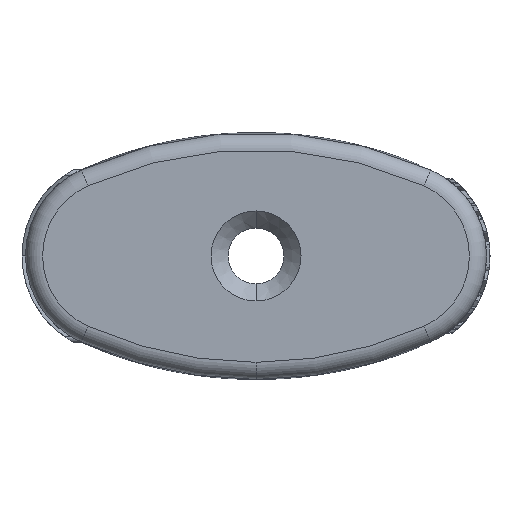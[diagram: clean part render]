
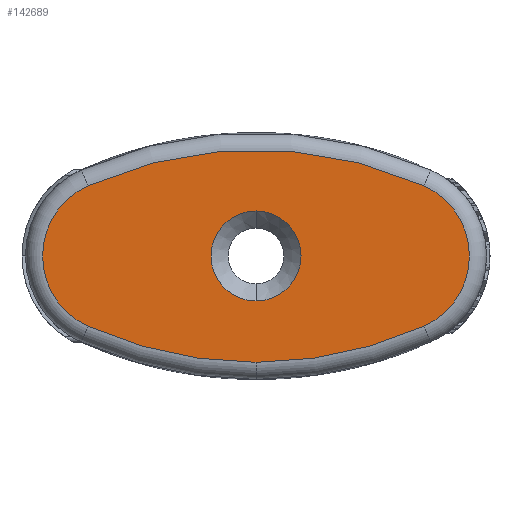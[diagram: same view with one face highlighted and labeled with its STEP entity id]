
A CAD part, front view. The second image highlights one B-rep face of the part: STEP entity #142689.
In plain terms, the highlighted planar face has unit normal (0, -1, 0).
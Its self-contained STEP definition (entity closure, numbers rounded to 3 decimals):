
#3163 = CARTESIAN_POINT ( 'NONE',  ( 0., 0., -6.2 ) ) ;
#5101 = VERTEX_POINT ( 'NONE', #115822 ) ;
#7995 = ORIENTED_EDGE ( 'NONE', *, *, #181501, .T. ) ;
#15764 = DIRECTION ( 'NONE',  ( 0., 0., -1. ) ) ;
#16698 = DIRECTION ( 'NONE',  ( 0., 1., 0. ) ) ;
#17925 = PLANE ( 'NONE',  #125001 ) ;
#18510 = CARTESIAN_POINT ( 'NONE',  ( 0., 0., 0. ) ) ;
#18570 = ORIENTED_EDGE ( 'NONE', *, *, #129181, .T. ) ;
#19658 = ORIENTED_EDGE ( 'NONE', *, *, #39215, .T. ) ;
#21766 = CARTESIAN_POINT ( 'NONE',  ( 0., 0., 0. ) ) ;
#31761 = DIRECTION ( 'NONE',  ( 0., -1., 0. ) ) ;
#39215 = EDGE_CURVE ( 'NONE', #62475, #184028, #145760, .T. ) ;
#39940 = CIRCLE ( 'NONE', #132085, 23.939 ) ;
#40500 = CARTESIAN_POINT ( 'NONE',  ( 9.79, 0., 4.106 ) ) ;
#40797 = CARTESIAN_POINT ( 'NONE',  ( 0., 0., 17.739 ) ) ;
#41259 = CARTESIAN_POINT ( 'NONE',  ( 7.95, 0., 0. ) ) ;
#42934 = ORIENTED_EDGE ( 'NONE', *, *, #64631, .T. ) ;
#42969 = CARTESIAN_POINT ( 'NONE',  ( 0., 0., -17.739 ) ) ;
#62475 = VERTEX_POINT ( 'NONE', #129173 ) ;
#64631 = EDGE_CURVE ( 'NONE', #109550, #62475, #39940, .T. ) ;
#67411 = DIRECTION ( 'NONE',  ( 0., 0., -1. ) ) ;
#68383 = AXIS2_PLACEMENT_3D ( 'NONE', #18510, #16698, #15764 ) ;
#71258 = EDGE_CURVE ( 'NONE', #136383, #154121, #128904, .T. ) ;
#71671 = DIRECTION ( 'NONE',  ( 0., -1., 0. ) ) ;
#84385 = AXIS2_PLACEMENT_3D ( 'NONE', #40797, #140285, #99395 ) ;
#87713 = CIRCLE ( 'NONE', #132243, 4.5 ) ;
#87746 = FACE_OUTER_BOUND ( 'NONE', #151023, .T. ) ;
#95353 = AXIS2_PLACEMENT_3D ( 'NONE', #41259, #98920, #67411 ) ;
#95998 = ORIENTED_EDGE ( 'NONE', *, *, #71258, .T. ) ;
#98890 = DIRECTION ( 'NONE',  ( 0., -1., 0. ) ) ;
#98920 = DIRECTION ( 'NONE',  ( 0., -1., 0. ) ) ;
#99145 = DIRECTION ( 'NONE',  ( 0., -1., 0. ) ) ;
#99395 = DIRECTION ( 'NONE',  ( 0., 0., -1. ) ) ;
#100746 = FACE_BOUND ( 'NONE', #140249, .T. ) ;
#101910 = DIRECTION ( 'NONE',  ( 0., 0., -1. ) ) ;
#103174 = EDGE_CURVE ( 'NONE', #184028, #5101, #103668, .T. ) ;
#103668 = CIRCLE ( 'NONE', #168929, 23.939 ) ;
#105812 = VERTEX_POINT ( 'NONE', #117975 ) ;
#107311 = DIRECTION ( 'NONE',  ( 0., 0., -1. ) ) ;
#109550 = VERTEX_POINT ( 'NONE', #3163 ) ;
#110646 = ORIENTED_EDGE ( 'NONE', *, *, #103174, .T. ) ;
#112532 = DIRECTION ( 'NONE',  ( 0., 0., -1. ) ) ;
#115822 = CARTESIAN_POINT ( 'NONE',  ( -9.79, 0., 4.106 ) ) ;
#115862 = CARTESIAN_POINT ( 'NONE',  ( -7.95, 0., 0. ) ) ;
#115874 = CIRCLE ( 'NONE', #68383, 2.625 ) ;
#116213 = CARTESIAN_POINT ( 'NONE',  ( 0., 0., 17.739 ) ) ;
#117975 = CARTESIAN_POINT ( 'NONE',  ( -9.79, 0., -4.106 ) ) ;
#118059 = CARTESIAN_POINT ( 'NONE',  ( 0., 0., 2.625 ) ) ;
#125001 = AXIS2_PLACEMENT_3D ( 'NONE', #169522, #98890, #155586 ) ;
#128518 = DIRECTION ( 'NONE',  ( 0., 0., -1. ) ) ;
#128904 = CIRCLE ( 'NONE', #158614, 2.625 ) ;
#128959 = CIRCLE ( 'NONE', #84385, 23.939 ) ;
#129173 = CARTESIAN_POINT ( 'NONE',  ( 9.79, 0., -4.106 ) ) ;
#129181 = EDGE_CURVE ( 'NONE', #154121, #136383, #115874, .T. ) ;
#132085 = AXIS2_PLACEMENT_3D ( 'NONE', #116213, #71671, #112532 ) ;
#132189 = ORIENTED_EDGE ( 'NONE', *, *, #173833, .T. ) ;
#132243 = AXIS2_PLACEMENT_3D ( 'NONE', #115862, #99145, #101910 ) ;
#136383 = VERTEX_POINT ( 'NONE', #118059 ) ;
#140249 = EDGE_LOOP ( 'NONE', ( #18570, #95998 ) ) ;
#140285 = DIRECTION ( 'NONE',  ( 0., -1., 0. ) ) ;
#142689 = ADVANCED_FACE ( 'NONE', ( #100746, #87746 ), #17925, .T. ) ;
#145760 = CIRCLE ( 'NONE', #95353, 4.5 ) ;
#146208 = CARTESIAN_POINT ( 'NONE',  ( 0., 0., -2.625 ) ) ;
#151023 = EDGE_LOOP ( 'NONE', ( #110646, #7995, #132189, #42934, #19658 ) ) ;
#154121 = VERTEX_POINT ( 'NONE', #146208 ) ;
#155586 = DIRECTION ( 'NONE',  ( 0., 0., -1. ) ) ;
#158614 = AXIS2_PLACEMENT_3D ( 'NONE', #21766, #163055, #107311 ) ;
#163055 = DIRECTION ( 'NONE',  ( 0., 1., 0. ) ) ;
#168929 = AXIS2_PLACEMENT_3D ( 'NONE', #42969, #31761, #128518 ) ;
#169522 = CARTESIAN_POINT ( 'NONE',  ( 3.975, 0., 8.869 ) ) ;
#173833 = EDGE_CURVE ( 'NONE', #105812, #109550, #128959, .T. ) ;
#181501 = EDGE_CURVE ( 'NONE', #5101, #105812, #87713, .T. ) ;
#184028 = VERTEX_POINT ( 'NONE', #40500 ) ;
